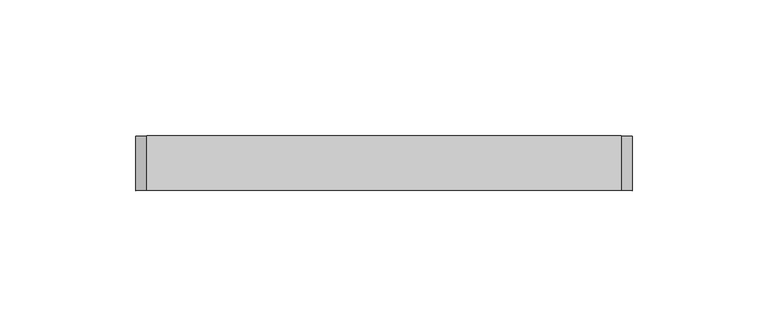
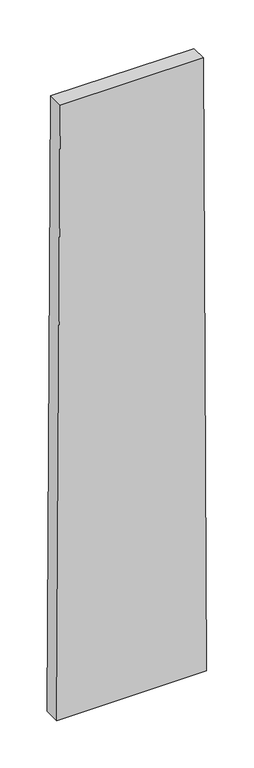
"""IFC4 building model written with IfcOpenShell, lengths in millimetres: plate geometry, 空系统嵌板 : 空."""

from ifc_helpers import new_model, si_unit, frame, origin, place, context, project, spatial, polyline, outline, extrude, source, transform, mapped, element, save


def plate_6b57b127(model_context):
    return source(origin(), model_context, "Body", "SweptSolid", [
        extrude(outline(polyline([(0.0, -91.2321339), (0.0, 91.2321339), (790.1020984, 87.1912412), (790.1020984, -87.1912412), (0.0, -91.2321339)])), frame((0.0, -10.0, 0.0), z_axis=(0.0, 1.0, 0.0), x_axis=(0.0, 0.0, 1.0)), (0.0, 0.0, 1.0), 20.0),
    ])


if __name__ == "__main__":
    model = new_model("IFC4")
    model_context = context("Model", 3, world=origin())
    ifc_project = project(units=[si_unit("LENGTHUNIT", "METRE", prefix="MILLI")], contexts=[model_context])
    site = spatial("IfcSite", under=ifc_project)
    building = spatial("IfcBuilding", under=site)
    placement = place(None, origin())
    plate_shape = plate_6b57b127(model_context)
    element("IfcPlate", 1, ObjectType="空系统嵌板 : 空", at=placement, inside=building, context=model_context, shape_type="MappedRepresentation", body=[
        mapped(plate_shape, transform((0.0, 0.0, 0.0), x_axis=(1.0, 0.0, 0.0), y_axis=(0.0, 1.0, 0.0), z_axis=(0.0, 0.0, 1.0))),
    ])
    save(model, "model.ifc")
